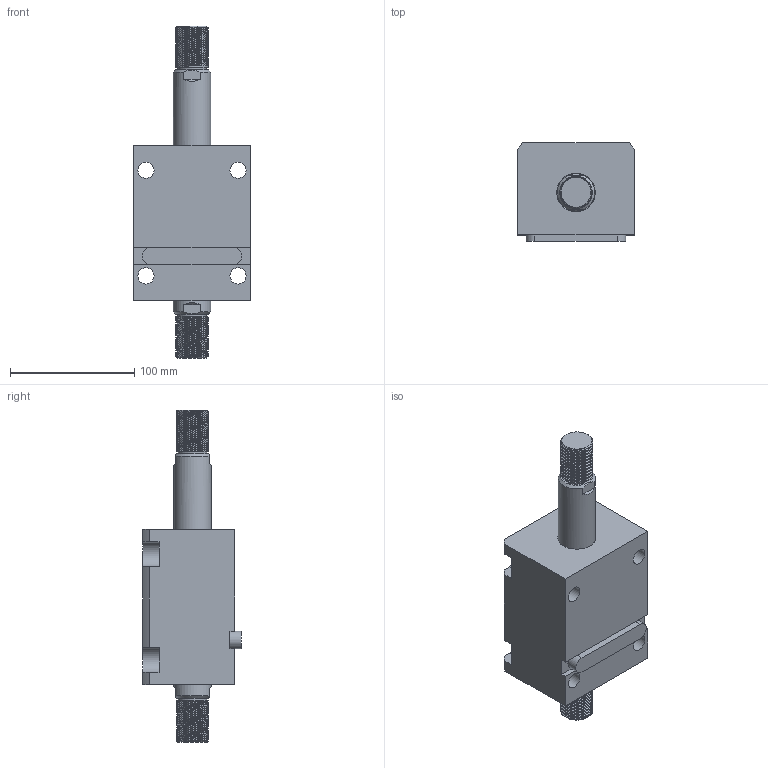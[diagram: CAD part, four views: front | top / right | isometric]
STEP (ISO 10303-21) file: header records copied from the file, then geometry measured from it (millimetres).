
FILE_DESCRIPTION(/* description */ (''),/* implementation_level */ '2;1');
FILE_NAME(/* name */ 'CHTB-LW50-50W.stp',/* time_stamp */ '2022-04-29T18:08:56+08:00',/* author */ (''),/* organization */ (''),/* preprocessor_version */ 'ST-DEVELOPER v16.7',/* originating_system */ 'SIEMENS PLM Software NX 12.0',/* authorisation */ '');
FILE_SCHEMA (('AUTOMOTIVE_DESIGN { 1 0 10303 214 3 1 1 1 }'));
Length unit declared in the file: millimetre
Products named in the file (1): CHTB-LW50-50W
Bounding box: 94 x 79 x 267 mm (x, y, z)
Volume: 836500.6 mm3; surface area: 133952.8 mm2
Topology: 3 solids, 3 shells, 461 faces, 1435 edges, 1024 vertices
Faces by surface type: plane 303, extrusion 78, cylinder 44, cone 13, bspline 12, torus 11
Full cylindrical faces by diameter (mm): 4 x2, 5 x2, 10.7 x2, 13 x4, 23 x2, 30 x4, 39 x1, 46 x1, 50 x5, 59 x1
Entity records: 27400 total; most frequent: CARTESIAN_POINT 13422, ORIENTED_EDGE 2736, DIRECTION 1880, EDGE_CURVE 1368, VERTEX_POINT 1010, VECTOR 914, LINE 836, EDGE_LOOP 572
